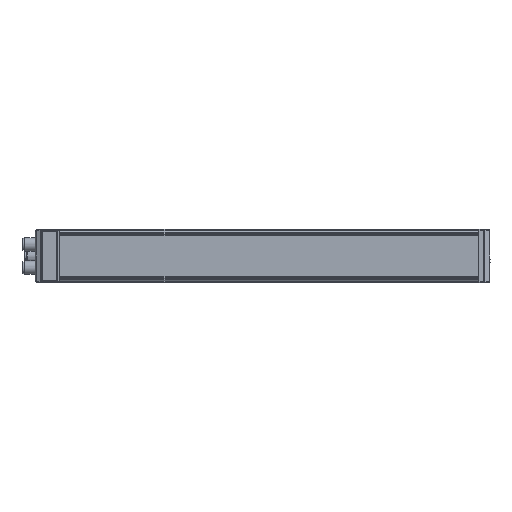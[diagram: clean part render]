
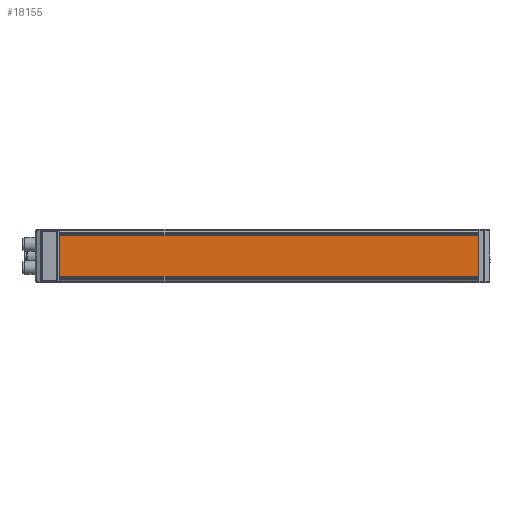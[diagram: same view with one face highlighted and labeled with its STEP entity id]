
A CAD part, front view. The second image highlights one B-rep face of the part: STEP entity #18155.
In plain terms, the highlighted planar face has unit normal (0, -1, 0).
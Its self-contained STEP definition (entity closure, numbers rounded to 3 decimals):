
#2498=FACE_OUTER_BOUND('',#3626,.T.);
#3626=EDGE_LOOP('',(#14352,#14353,#14354,#14355));
#4526=LINE('',#32148,#5924);
#4626=LINE('',#32585,#6024);
#4969=LINE('',#39182,#6367);
#4970=LINE('',#39184,#6368);
#5924=VECTOR('',#21769,36.);
#6024=VECTOR('',#22033,36.);
#6367=VECTOR('',#23666,376.);
#6368=VECTOR('',#23669,376.);
#7518=VERTEX_POINT('',#32145);
#7519=VERTEX_POINT('',#32147);
#7688=VERTEX_POINT('',#32582);
#7689=VERTEX_POINT('',#32584);
#9400=EDGE_CURVE('',#7518,#7519,#4526,.T.);
#9575=EDGE_CURVE('',#7689,#7688,#4626,.T.);
#10364=EDGE_CURVE('',#7518,#7689,#4969,.T.);
#10365=EDGE_CURVE('',#7519,#7688,#4970,.T.);
#14352=ORIENTED_EDGE('',*,*,#9575,.T.);
#14353=ORIENTED_EDGE('',*,*,#10365,.F.);
#14354=ORIENTED_EDGE('',*,*,#9400,.F.);
#14355=ORIENTED_EDGE('',*,*,#10364,.T.);
#16240=PLANE('',#19780);
#18155=ADVANCED_FACE('',(#2498),#16240,.T.);
#19780=AXIS2_PLACEMENT_3D('',#39183,#23667,#23668);
#21769=DIRECTION('',(0.,0.,1.));
#22033=DIRECTION('',(0.,0.,1.));
#23666=DIRECTION('',(1.,0.,0.));
#23667=DIRECTION('center_axis',(0.,-1.,0.));
#23668=DIRECTION('ref_axis',(0.,0.,1.));
#23669=DIRECTION('',(1.,0.,0.));
#32145=CARTESIAN_POINT('',(-0.5,-17.589,-18.));
#32147=CARTESIAN_POINT('',(-0.5,-17.589,18.));
#32148=CARTESIAN_POINT('',(-0.5,-17.589,-18.));
#32582=CARTESIAN_POINT('',(375.5,-17.589,18.));
#32584=CARTESIAN_POINT('',(375.5,-17.589,-18.));
#32585=CARTESIAN_POINT('',(375.5,-17.589,-18.));
#39182=CARTESIAN_POINT('',(-0.5,-17.589,-18.));
#39183=CARTESIAN_POINT('Origin',(649.5,-17.589,0.));
#39184=CARTESIAN_POINT('',(-0.5,-17.589,18.));
